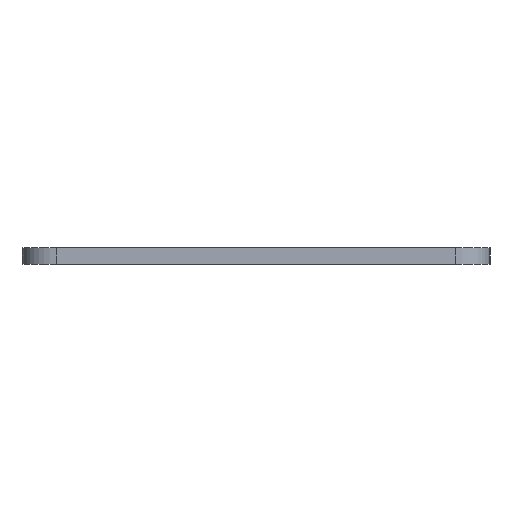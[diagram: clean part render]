
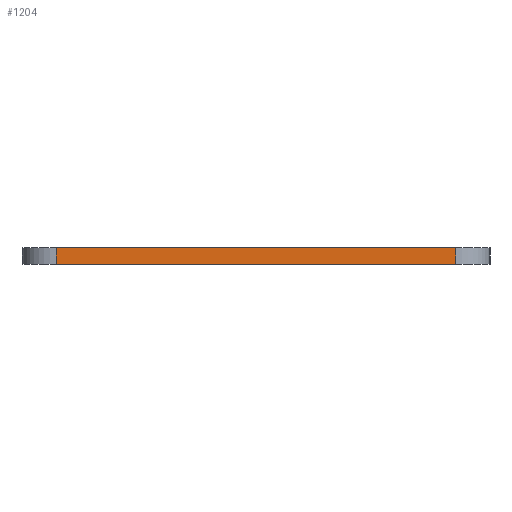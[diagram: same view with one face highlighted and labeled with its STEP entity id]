
A CAD part, left-side view. The second image highlights one B-rep face of the part: STEP entity #1204.
In plain terms, the highlighted planar face has unit normal (-1, 0, 0).
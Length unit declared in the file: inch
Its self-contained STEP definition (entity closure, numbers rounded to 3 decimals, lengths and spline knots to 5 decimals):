
#6 = EDGE_LOOP ( 'NONE', ( #882, #996, #862, #467 ) ) ;
#33 = CARTESIAN_POINT ( 'NONE',  ( 0., 0., 0. ) ) ;
#58 = CARTESIAN_POINT ( 'NONE',  ( 0., 0.125, 0.06 ) ) ;
#86 = VECTOR ( 'NONE', #100, 39.37008 ) ;
#100 = DIRECTION ( 'NONE',  ( 0., 0., -1. ) ) ;
#164 = CARTESIAN_POINT ( 'NONE',  ( 0., 0.125, 0. ) ) ;
#264 = CARTESIAN_POINT ( 'NONE',  ( 0., 1.595, 0. ) ) ;
#274 = AXIS2_PLACEMENT_3D ( 'NONE', #785, #946, #415 ) ;
#390 = LINE ( 'NONE', #33, #1090 ) ;
#410 = FACE_OUTER_BOUND ( 'NONE', #6, .T. ) ;
#415 = DIRECTION ( 'NONE',  ( 0., 0., -1. ) ) ;
#461 = VERTEX_POINT ( 'NONE', #164 ) ;
#467 = ORIENTED_EDGE ( 'NONE', *, *, #557, .T. ) ;
#487 = EDGE_CURVE ( 'NONE', #461, #915, #751, .T. ) ;
#542 = VECTOR ( 'NONE', #676, 39.37008 ) ;
#557 = EDGE_CURVE ( 'NONE', #1147, #867, #943, .T. ) ;
#579 = DIRECTION ( 'NONE',  ( 0., -1., 0. ) ) ;
#616 = EDGE_CURVE ( 'NONE', #1147, #915, #762, .T. ) ;
#647 = VECTOR ( 'NONE', #579, 39.37008 ) ;
#676 = DIRECTION ( 'NONE',  ( 0., 0., 1. ) ) ;
#693 = PLANE ( 'NONE',  #274 ) ;
#751 = LINE ( 'NONE', #1024, #542 ) ;
#762 = LINE ( 'NONE', #1133, #647 ) ;
#785 = CARTESIAN_POINT ( 'NONE',  ( 0., 0., 0.06 ) ) ;
#862 = ORIENTED_EDGE ( 'NONE', *, *, #616, .F. ) ;
#867 = VERTEX_POINT ( 'NONE', #264 ) ;
#878 = CARTESIAN_POINT ( 'NONE',  ( 0., 1.595, 0.06 ) ) ;
#882 = ORIENTED_EDGE ( 'NONE', *, *, #1202, .T. ) ;
#915 = VERTEX_POINT ( 'NONE', #58 ) ;
#943 = LINE ( 'NONE', #1114, #86 ) ;
#946 = DIRECTION ( 'NONE',  ( 1., 0., 0. ) ) ;
#996 = ORIENTED_EDGE ( 'NONE', *, *, #487, .T. ) ;
#1024 = CARTESIAN_POINT ( 'NONE',  ( 0., 0.125, 0.06 ) ) ;
#1090 = VECTOR ( 'NONE', #1135, 39.37008 ) ;
#1114 = CARTESIAN_POINT ( 'NONE',  ( 0., 1.595, 0.06 ) ) ;
#1133 = CARTESIAN_POINT ( 'NONE',  ( 0., 0., 0.06 ) ) ;
#1135 = DIRECTION ( 'NONE',  ( 0., -1., 0. ) ) ;
#1147 = VERTEX_POINT ( 'NONE', #878 ) ;
#1202 = EDGE_CURVE ( 'NONE', #867, #461, #390, .T. ) ;
#1204 = ADVANCED_FACE ( 'NONE', ( #410 ), #693, .F. ) ;
